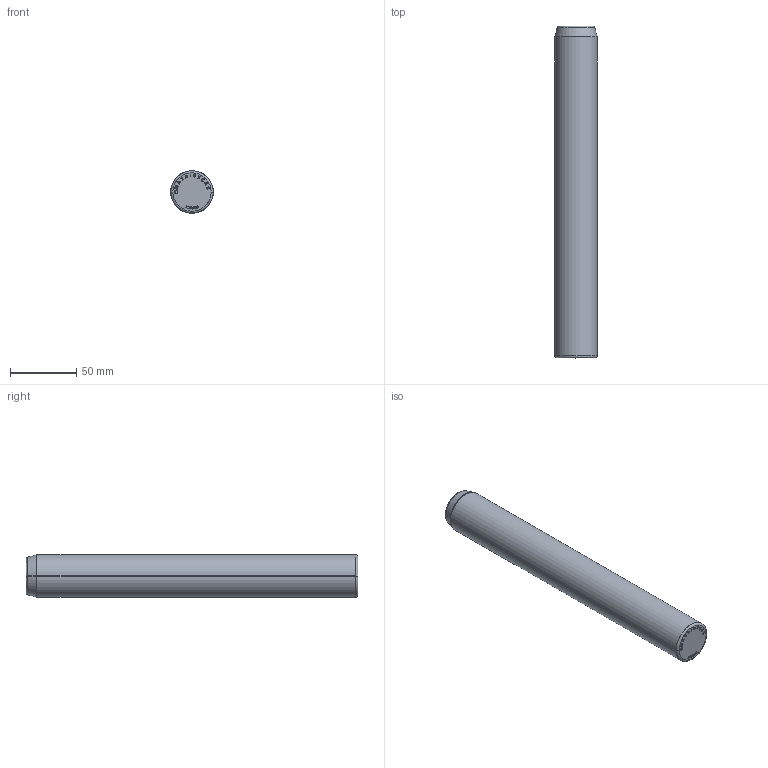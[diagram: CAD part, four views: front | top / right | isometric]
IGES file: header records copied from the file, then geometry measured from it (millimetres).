
Start section: SolidWorks IGES file using analytic representation for surfaces
Global section: file name: D:\Cleonir_arquivos\MT_15_07\Pinos Lisos\PL32250.igs; native system: SolidWorks 2013; preprocessor: SolidWorks 2013; author: Cleonir; date: 130731.134504; units: millimetre
Bounding box: 32 x 250 x 32 mm (x, y, z)
Surface area: 26901.3 mm2 (no closed solid volume)
Topology: 0 solids, 0 shells, 281 faces, 3516 edges, 3514 vertices
Faces by surface type: bspline 260, revolution 21
